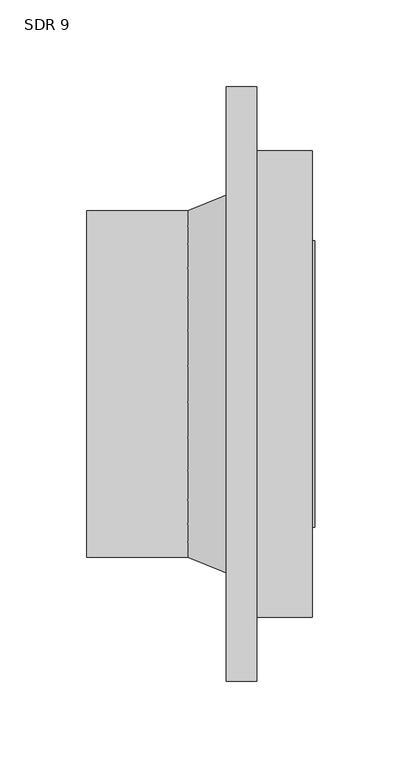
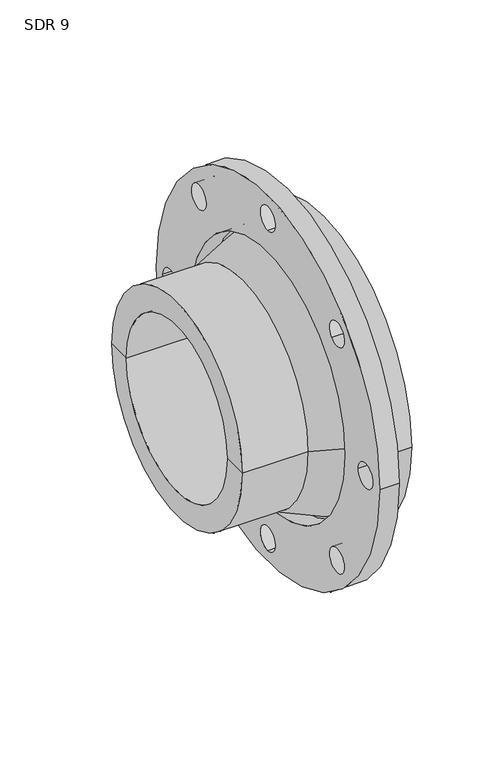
"""IFC4 building model written with IfcOpenShell, lengths in millimetres: valve geometry, Aquatherm - Flange Adapter Butt-Weld : SDR 9."""

import ifcopenshell
import ifcopenshell.guid

model = None  # the IFC model being written
_history = None  # IfcOwnerHistory: only IFC2X3 demands one
_inside = {}  # id of a spatial element -> (the spatial element, [elements in it])
_under = {}  # id of a project, library or spatial element -> (it, [spatial elements below it])
_declared = {}  # id of a project -> (the project, [libraries it declares])
_typed = {}  # id of a type object -> (the type object, [elements of that type])
_made_of = {}  # id of a material, layer set ... -> (it, [elements and type objects made of it])


def new_model(schema):
    """Start an empty IFC model of exactly this schema.

    Asked for "IFC4X3", IfcOpenShell would pick the latest addendum, in which some entities
    have other attributes; the version numbers below select the first issue.
    IFC2X3 requires an IfcOwnerHistory on every rooted entity: one is made here for all.
    """
    global model, _history
    if schema == "IFC4X3":
        model = ifcopenshell.file(schema_version=(4, 3, 0, 0))
    else:
        model = ifcopenshell.file(schema=schema)
    _inside.clear()
    _under.clear()
    _declared.clear()
    _typed.clear()
    _made_of.clear()
    _history = None
    if model.schema == "IFC2X3":
        org = make("IfcOrganization", Name="unknown")
        user = make(
            "IfcPersonAndOrganization",
            ThePerson=make("IfcPerson", FamilyName="unknown"),
            TheOrganization=org,
        )
        app = make(
            "IfcApplication",
            ApplicationDeveloper=org,
            Version="unknown",
            ApplicationFullName="unknown",
            ApplicationIdentifier="unknown",
        )
        _history = make(
            "IfcOwnerHistory",
            OwningUser=user,
            OwningApplication=app,
            ChangeAction="ADDED",
            CreationDate=0,
        )
    return model


def make(cls, **values):
    """One entity of the class cls with the attributes given. An attribute that is None is left unset."""
    return model.create_entity(
        cls, **{name: value for name, value in values.items() if value is not None}
    )


def rooted(cls, **values):
    """An entity with a GlobalId (a new one), such as an element, a storey or a relation."""
    return make(cls, GlobalId=ifcopenshell.guid.new(), OwnerHistory=_history, **values)


def si_unit(unit_type, name, prefix=None):
    """IfcSIUnit, for example si_unit("LENGTHUNIT", "METRE", prefix="MILLI")."""
    return make("IfcSIUnit", UnitType=unit_type, Prefix=prefix, Name=name)


def assignment(units):
    """IfcUnitAssignment: the units of a project."""
    return None if units is None else make("IfcUnitAssignment", Units=units)


def point(xyz):
    """IfcCartesianPoint."""
    return None if xyz is None else make("IfcCartesianPoint", Coordinates=xyz)


def direction(xyz):
    """IfcDirection."""
    return None if xyz is None else make("IfcDirection", DirectionRatios=xyz)


def frame(location, z_axis=None, x_axis=None):
    """IfcAxis2Placement3D, a coordinate frame: its origin and axes. An axis left out is left unset."""
    return make(
        "IfcAxis2Placement3D",
        Location=point(location),
        Axis=direction(z_axis),
        RefDirection=direction(x_axis),
    )


def frame_2d(location, x_axis=None):
    """IfcAxis2Placement2D, a coordinate frame in the plane: its origin and x axis."""
    return make(
        "IfcAxis2Placement2D", Location=point(location), RefDirection=direction(x_axis)
    )


def origin():
    """The frame at (0, 0, 0) with its axes left unset."""
    return frame((0.0, 0.0, 0.0))


def origin_2d():
    """The frame at (0, 0) in the plane with its x axis left unset."""
    return frame_2d((0.0, 0.0))


def place(relative_to, where):
    """IfcLocalPlacement: puts the frame where relative to a parent placement (None: the world)."""
    return make(
        "IfcLocalPlacement", PlacementRelTo=relative_to, RelativePlacement=where
    )


def context(
    kind, dimensions, precision=None, world=None, true_north=None, identifier=None
):
    """IfcGeometricRepresentationContext, for example the 3D "Model" context."""
    return make(
        "IfcGeometricRepresentationContext",
        ContextIdentifier=identifier,
        ContextType=kind,
        CoordinateSpaceDimension=dimensions,
        Precision=precision,
        WorldCoordinateSystem=world,
        TrueNorth=true_north,
    )


def project(units=None, contexts=None):
    """IfcProject with its units and contexts."""
    return rooted(
        "IfcProject",
        Name="project",
        RepresentationContexts=contexts,
        UnitsInContext=assignment(units),
    )


def spatial(cls, under=None, at=None, **own):
    """A site, building, storey or space (cls), placed at a placement, below another one or the project."""
    s = rooted(cls, ObjectPlacement=at, **own)
    if under is not None:
        _under.setdefault(under.id(), (under, []))[1].append(s)
    return s


def polyline(points):
    """IfcPolyline through the points."""
    return make("IfcPolyline", Points=[point(p) for p in points])


def circle_curve(where, radius):
    """IfcCircle in the frame where."""
    return make("IfcCircle", Position=where, Radius=radius)


def trimmed(basis, trim1, trim2, sense, master):
    """IfcTrimmedCurve: the piece of a basis curve between two trims."""
    return make(
        "IfcTrimmedCurve",
        BasisCurve=basis,
        Trim1=trim1,
        Trim2=trim2,
        SenseAgreement=sense,
        MasterRepresentation=master,
    )


def segment(curve, same_sense, transition):
    """IfcCompositeCurveSegment."""
    return make(
        "IfcCompositeCurveSegment",
        Transition=transition,
        SameSense=same_sense,
        ParentCurve=curve,
    )


def composite_curve(segments, self_intersect=None):
    """IfcCompositeCurve: segments joined end to end."""
    return make("IfcCompositeCurve", Segments=segments, SelfIntersect=self_intersect)


def outline(outer, holes=None, kind="AREA"):
    """IfcArbitraryClosedProfileDef: a profile drawn as a closed curve; with holes, ...WithVoids."""
    if holes is None:
        return make("IfcArbitraryClosedProfileDef", ProfileType=kind, OuterCurve=outer)
    return make(
        "IfcArbitraryProfileDefWithVoids",
        ProfileType=kind,
        OuterCurve=outer,
        InnerCurves=holes,
    )


def extrude(swept, where, along, depth):
    """IfcExtrudedAreaSolid: the profile swept, set in the frame where, extruded along a direction by depth."""
    return make(
        "IfcExtrudedAreaSolid",
        SweptArea=swept,
        Position=where,
        ExtrudedDirection=direction(along),
        Depth=depth,
    )


def shape(context_of_items, identifier, shape_type, items):
    """IfcShapeRepresentation: the items that make up one representation, for example the "Body"."""
    return make(
        "IfcShapeRepresentation",
        ContextOfItems=context_of_items,
        RepresentationIdentifier=identifier,
        RepresentationType=shape_type,
        Items=items,
    )


def source(mapping_origin, context_of_items, identifier, shape_type, items):
    """IfcRepresentationMap: a shape defined once, which mapped items show again and again."""
    return make(
        "IfcRepresentationMap",
        MappingOrigin=mapping_origin,
        MappedRepresentation=shape(context_of_items, identifier, shape_type, items),
    )


def transform(
    local_origin,
    x_axis=None,
    y_axis=None,
    z_axis=None,
    scale=None,
    scale2=None,
    scale3=None,
    uniform=True,
):
    """IfcCartesianTransformationOperator3D, or its non-uniform kind. x_axis, y_axis, z_axis: its Axis1, 2, 3."""
    if uniform:
        return make(
            "IfcCartesianTransformationOperator3D",
            Axis1=direction(x_axis),
            Axis2=direction(y_axis),
            LocalOrigin=point(local_origin),
            Scale=scale,
            Axis3=direction(z_axis),
        )
    return make(
        "IfcCartesianTransformationOperator3DnonUniform",
        Axis1=direction(x_axis),
        Axis2=direction(y_axis),
        LocalOrigin=point(local_origin),
        Scale=scale,
        Axis3=direction(z_axis),
        Scale2=scale2,
        Scale3=scale3,
    )


def mapped(mapping_source, mapping_target):
    """IfcMappedItem: shows the shape of a source again, moved by a transform."""
    return make(
        "IfcMappedItem", MappingSource=mapping_source, MappingTarget=mapping_target
    )


def made_of(thing, what):
    """Note that an element or type object is made of a material, layer set ...; save() writes the relation."""
    if what is not None:
        _made_of.setdefault(what.id(), (what, []))[1].append(thing)
    return thing


def element(
    cls,
    number,
    at=None,
    inside=None,
    cuts=None,
    type_object=None,
    material=None,
    context=None,
    identifier="Body",
    shape_type=None,
    held_by="IfcProductDefinitionShape",
    body=None,
    shapes=None,
    **own,
):
    """One element of the class cls, such as IfcWall. Its Tag is "e" and its number.

    at: its placement. inside: the storey or other place that contains it. cuts: it is an
    opening in that element (IfcRelVoidsElement). A single representation is given by context,
    identifier, shape_type and body (its items); several are given by shapes. held_by: the class
    of the entity that holds the representations. save() writes the other relations.
    """
    e = rooted(cls, Tag="e%d" % number, ObjectPlacement=at, **own)
    if body is not None:
        shapes = [shape(context, identifier, shape_type, body)]
    if shapes is not None:
        e.Representation = make(held_by, Representations=shapes)
    if inside is not None:
        _inside.setdefault(inside.id(), (inside, []))[1].append(e)
    if cuts is not None:
        rooted(
            "IfcRelVoidsElement", RelatingBuildingElement=cuts, RelatedOpeningElement=e
        )
    if type_object is not None:
        _typed.setdefault(type_object.id(), (type_object, []))[1].append(e)
    return made_of(e, material)


def aggregate(whole, parts):
    """IfcRelAggregates: a whole, such as a stair, and the parts it consists of."""
    return rooted("IfcRelAggregates", RelatingObject=whole, RelatedObjects=parts)


def save(model, path):
    """Write the relations noted so far, then the file.

    IfcRelAggregates (storeys below a building ...), IfcRelContainedInSpatialStructure (elements
    in a storey), IfcRelDefinesByType, IfcRelAssociatesMaterial and IfcRelDeclares: one each for
    every whole, place, type object, material and project.
    """
    for whole, parts in _under.values():
        aggregate(whole, parts)
    for where, things in _inside.values():
        rooted(
            "IfcRelContainedInSpatialStructure",
            RelatedElements=things,
            RelatingStructure=where,
        )
    for kind, things in _typed.values():
        rooted("IfcRelDefinesByType", RelatedObjects=things, RelatingType=kind)
    for what, things in _made_of.values():
        rooted("IfcRelAssociatesMaterial", RelatedObjects=things, RelatingMaterial=what)
    for by, libraries in _declared.values():
        rooted("IfcRelDeclares", RelatingContext=by, RelatedDefinitions=libraries)
    model.write(path)


def plane_surface(at):
    """IfcPlane: the flat surface through the origin of the frame at, square to its z axis."""
    return make("IfcPlane", Position=at)


def cylinder_surface(at, radius):
    """IfcCylindricalSurface: all points at the distance radius from the z axis of the frame at."""
    return make("IfcCylindricalSurface", Position=at, Radius=radius)


def revolved_surface(curve, axis_point, axis_direction):
    """IfcSurfaceOfRevolution: the curve turned about the line through axis_point along axis_direction."""
    return make(
        "IfcSurfaceOfRevolution",
        SweptCurve=make("IfcArbitraryOpenProfileDef", ProfileType="CURVE", Curve=curve),
        AxisPosition=make("IfcAxis1Placement", Location=point(axis_point), Axis=direction(axis_direction)),
    )


def advanced_brep(points, edges, surfaces, faces):
    """IfcAdvancedBrep: a solid bounded by faces that lie on surfaces and meet in shared edges.

    An edge is (start, end): straight between two places in points (the first is 0);
    or (start, end, curve); or (start, end, curve, False) where it runs against its curve.
    A face is (place in surfaces, loops), or (place, loops, False) where it looks against
    its surface's normal. A loop lists edges by number (the first is 1), with a minus sign
    where the edge is run from its end to its start. The first loop is the outer one.
    """
    corners = [point(p) for p in points]
    vertices = [make("IfcVertexPoint", VertexGeometry=c) for c in corners]
    made = []
    for start, end, *more in edges:
        made.append(
            make(
                "IfcEdgeCurve",
                EdgeStart=vertices[start],
                EdgeEnd=vertices[end],
                EdgeGeometry=more[0] if more else make("IfcPolyline", Points=[corners[start], corners[end]]),
                SameSense=more[1] if len(more) > 1 else True,
            )
        )
    hull = []
    for where, loops, *sense in faces:
        bounds = []
        for j, loop in enumerate(loops):
            ring = [make("IfcOrientedEdge", EdgeElement=made[abs(k) - 1], Orientation=k > 0) for k in loop]
            bounds.append(
                make(
                    "IfcFaceOuterBound" if j == 0 else "IfcFaceBound",
                    Bound=make("IfcEdgeLoop", EdgeList=ring),
                    Orientation=True,
                )
            )
        hull.append(make("IfcAdvancedFace", Bounds=bounds, FaceSurface=surfaces[where], SameSense=sense[0] if sense else True))
    return make("IfcAdvancedBrep", Outer=make("IfcClosedShell", CfsFaces=hull))


def sdr_9_1f6f3b40(model_context):
    return source(origin(), model_context, "Body", "SolidModel", [
        extrude(outline(composite_curve([segment(trimmed(circle_curve(origin_2d(), 171.45), [point((-171.45, 0.0))], [point((171.45, 0.0))], False, "CARTESIAN"), True, "CONTINUOUS"), segment(trimmed(circle_curve(origin_2d(), 171.45), [point((171.45, 0.0))], [point((-171.45, 0.0))], False, "CARTESIAN"), True, "CONTINUOUS")], self_intersect=False), holes=[composite_curve([segment(trimmed(circle_curve(origin_2d(), 118.237), [point((-118.237, 0.0))], [point((118.237, 0.0))], True, "CARTESIAN"), True, "CONTINUOUS"), segment(trimmed(circle_curve(origin_2d(), 118.237), [point((118.237, 0.0))], [point((-118.237, 0.0))], True, "CARTESIAN"), True, "CONTINUOUS")], self_intersect=False), composite_curve([segment(trimmed(circle_curve(frame_2d((149.86, 0.0)), 11.176), [point((138.684, 0.0))], [point((161.036, 0.0))], True, "CARTESIAN"), True, "CONTINUOUS"), segment(trimmed(circle_curve(frame_2d((149.86, 0.0)), 11.176), [point((161.036, 0.0))], [point((138.684, 0.0))], True, "CARTESIAN"), True, "CONTINUOUS")], self_intersect=False), composite_curve([segment(trimmed(circle_curve(frame_2d((105.9670222, -105.9670222)), 11.176), [point((98.0643968, -98.0643968))], [point((113.8696476, -113.8696476))], True, "CARTESIAN"), True, "CONTINUOUS"), segment(trimmed(circle_curve(frame_2d((105.9670222, -105.9670222)), 11.176), [point((113.8696476, -113.8696476))], [point((98.0643968, -98.0643968))], True, "CARTESIAN"), True, "CONTINUOUS")], self_intersect=False), composite_curve([segment(trimmed(circle_curve(frame_2d((105.9670222, 105.9670222)), 11.176), [point((98.0643968, 98.0643968))], [point((113.8696476, 113.8696476))], True, "CARTESIAN"), True, "CONTINUOUS"), segment(trimmed(circle_curve(frame_2d((105.9670222, 105.9670222)), 11.176), [point((113.8696476, 113.8696476))], [point((98.0643968, 98.0643968))], True, "CARTESIAN"), True, "CONTINUOUS")], self_intersect=False), composite_curve([segment(trimmed(circle_curve(frame_2d((0.0, 149.86)), 11.176), [point((0.0, 138.684))], [point((0.0, 161.036))], True, "CARTESIAN"), True, "CONTINUOUS"), segment(trimmed(circle_curve(frame_2d((0.0, 149.86)), 11.176), [point((0.0, 161.036))], [point((0.0, 138.684))], True, "CARTESIAN"), True, "CONTINUOUS")], self_intersect=False), composite_curve([segment(trimmed(circle_curve(frame_2d((-105.9670222, 105.9670222)), 11.176), [point((-98.0643968, 98.0643968))], [point((-113.8696476, 113.8696476))], True, "CARTESIAN"), True, "CONTINUOUS"), segment(trimmed(circle_curve(frame_2d((-105.9670222, 105.9670222)), 11.176), [point((-113.8696476, 113.8696476))], [point((-98.0643968, 98.0643968))], True, "CARTESIAN"), True, "CONTINUOUS")], self_intersect=False), composite_curve([segment(trimmed(circle_curve(frame_2d((-149.86, 0.0)), 11.176), [point((-138.684, 0.0))], [point((-161.036, 0.0))], True, "CARTESIAN"), True, "CONTINUOUS"), segment(trimmed(circle_curve(frame_2d((-149.86, 0.0)), 11.176), [point((-161.036, 0.0))], [point((-138.684, 0.0))], True, "CARTESIAN"), True, "CONTINUOUS")], self_intersect=False), composite_curve([segment(trimmed(circle_curve(frame_2d((-105.9670222, -105.9670222)), 11.176), [point((-98.0643968, -98.0643968))], [point((-113.8696476, -113.8696476))], True, "CARTESIAN"), True, "CONTINUOUS"), segment(trimmed(circle_curve(frame_2d((-105.9670222, -105.9670222)), 11.176), [point((-113.8696476, -113.8696476))], [point((-98.0643968, -98.0643968))], True, "CARTESIAN"), True, "CONTINUOUS")], self_intersect=False), composite_curve([segment(trimmed(circle_curve(frame_2d((0.0, -149.86)), 11.176), [point((0.0, -138.684))], [point((0.0, -161.036))], True, "CARTESIAN"), True, "CONTINUOUS"), segment(trimmed(circle_curve(frame_2d((0.0, -149.86)), 11.176), [point((0.0, -161.036))], [point((0.0, -138.684))], True, "CARTESIAN"), True, "CONTINUOUS")], self_intersect=False)]), frame((-17.526, 0.0, 0.0), z_axis=(1.0, 0.0, 0.0), x_axis=(0.0, 1.0, 0.0)), (0.0, 0.0, 1.0), 17.526),
        advanced_brep(
        [(32.004, 134.62, 0.0), (32.004, -134.62, 0.0), (0.0, -134.62, 0.0), (0.0, 134.62, 0.0), (33.5915, 77.597, 0.0), (33.5915, -77.597, 0.0), (33.5915, -82.677, 0.0), (33.5915, 82.677, 0.0), (-98.044, 77.597, 0.0), (-98.044, -77.597, 0.0), (-98.044, 99.949, 0.0), (-98.044, -99.949, 0.0), (-39.878, 99.949, 0.0), (-39.878, -99.949, 0.0), (0.0, -115.951, 0.0), (0.0, 115.951, 0.0), (32.004, 82.677, 0.0), (32.004, -82.677, 0.0)],
        [
            (0, 1, circle_curve(frame((32.004, 0.0, 0.0), z_axis=(-1.0, 0.0, 0.0), x_axis=(0.0, -1.0, 0.0)), 134.62)),
            (1, 2),
            (2, 3, circle_curve(frame((0.0, 0.0, 0.0), z_axis=(1.0, 0.0, 0.0), x_axis=(0.0, -1.0, 0.0)), 134.62)),
            (3, 0),
            (1, 0, circle_curve(frame((32.004, 0.0, 0.0), z_axis=(-1.0, 0.0, 0.0), x_axis=(0.0, -1.0, 0.0)), 134.62)),
            (3, 2, circle_curve(frame((0.0, 0.0, 0.0), z_axis=(1.0, 0.0, 0.0), x_axis=(0.0, -1.0, 0.0)), 134.62)),
            (4, 5, circle_curve(frame((33.5915, 0.0, 0.0), z_axis=(-1.0, 0.0, 0.0), x_axis=(0.0, -1.0, 0.0)), 77.597)),
            (5, 6),
            (6, 7, circle_curve(frame((33.5915, 0.0, 0.0), z_axis=(1.0, 0.0, 0.0), x_axis=(0.0, -1.0, 0.0)), 82.677)),
            (7, 4),
            (5, 4, circle_curve(frame((33.5915, 0.0, 0.0), z_axis=(-1.0, 0.0, 0.0), x_axis=(0.0, -1.0, 0.0)), 77.597)),
            (7, 6, circle_curve(frame((33.5915, 0.0, 0.0), z_axis=(1.0, 0.0, 0.0), x_axis=(0.0, -1.0, 0.0)), 82.677)),
            (8, 9, circle_curve(frame((-98.044, 0.0, 0.0), z_axis=(-1.0, 0.0, 0.0), x_axis=(0.0, -1.0, 0.0)), 77.597)),
            (9, 5),
            (4, 8),
            (9, 8, circle_curve(frame((-98.044, 0.0, 0.0), z_axis=(-1.0, 0.0, 0.0), x_axis=(0.0, -1.0, 0.0)), 77.597)),
            (10, 11, circle_curve(frame((-98.044, 0.0, 0.0), z_axis=(-1.0, 0.0, 0.0), x_axis=(0.0, -1.0, 0.0)), 99.949)),
            (11, 9),
            (8, 10),
            (11, 10, circle_curve(frame((-98.044, 0.0, 0.0), z_axis=(-1.0, 0.0, 0.0), x_axis=(0.0, -1.0, 0.0)), 99.949)),
            (12, 13, circle_curve(frame((-39.878, 0.0, 0.0), z_axis=(-1.0, 0.0, 0.0), x_axis=(0.0, -1.0, 0.0)), 99.949)),
            (13, 11),
            (10, 12),
            (13, 12, circle_curve(frame((-39.878, 0.0, 0.0), z_axis=(-1.0, 0.0, 0.0), x_axis=(0.0, -1.0, 0.0)), 99.949)),
            (2, 14),
            (14, 15, circle_curve(frame((0.0, 0.0, 0.0), z_axis=(1.0, 0.0, 0.0), x_axis=(0.0, -1.0, 0.0)), 115.951)),
            (15, 3),
            (15, 14, circle_curve(frame((0.0, 0.0, 0.0), z_axis=(1.0, 0.0, 0.0), x_axis=(0.0, -1.0, 0.0)), 115.951)),
            (16, 17, circle_curve(frame((32.004, 0.0, 0.0), z_axis=(-1.0, 0.0, 0.0), x_axis=(0.0, -1.0, 0.0)), 82.677)),
            (17, 1),
            (0, 16),
            (17, 16, circle_curve(frame((32.004, 0.0, 0.0), z_axis=(-1.0, 0.0, 0.0), x_axis=(0.0, -1.0, 0.0)), 82.677)),
            (6, 17),
            (16, 7),
            (14, 13),
            (12, 15),
        ],
        [
            cylinder_surface(frame((1472.6429321, 0.0, 0.0), z_axis=(1.0, 0.0, 0.0), x_axis=(0.0, -1.0, 0.0)), 134.62),
            plane_surface(frame((33.5915, 0.0, 0.0), z_axis=(1.0, 0.0, 0.0), x_axis=(0.0, -1.0, 0.0))),
            revolved_surface(polyline([(33.591499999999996, -77.597, 0.0), (-98.0440000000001, -77.597, 0.0)]), (1472.6429321, 0.0, 0.0), (1.0, 0.0, 0.0)),
            plane_surface(frame((-98.044, 0.0, 0.0), z_axis=(-1.0, 0.0, 0.0), x_axis=(0.0, -1.0, 0.0))),
            cylinder_surface(frame((1472.6429321, 0.0, 0.0), z_axis=(1.0, 0.0, 0.0), x_axis=(0.0, -1.0, 0.0)), 99.949),
            plane_surface(frame((0.0, 0.0, 0.0), z_axis=(-1.0, 0.0, 0.0), x_axis=(0.0, -1.0, 0.0))),
            plane_surface(frame((32.004, 0.0, 0.0), z_axis=(1.0, 0.0, 0.0), x_axis=(0.0, -1.0, 0.0))),
            cylinder_surface(frame((1472.6429321, 0.0, 0.0), z_axis=(1.0, 0.0, 0.0), x_axis=(0.0, -1.0, 0.0)), 82.677),
            revolved_surface(polyline([(-39.878, -99.949, 0.0), (0.0, -115.951, 0.0)]), (1472.6429321, 0.0, 0.0), (1.0, 0.0, 0.0)),
        ],
        [
            (0, [[1, 2, 3, 4]]),
            (0, [[5, -4, 6, -2]]),
            (1, [[7, 8, 9, 10]]),
            (1, [[11, -10, 12, -8]]),
            (2, [[13, 14, -7, 15]]),
            (2, [[16, -15, -11, -14]]),
            (3, [[17, 18, -13, 19]]),
            (3, [[20, -19, -16, -18]]),
            (4, [[21, 22, -17, 23]]),
            (4, [[24, -23, -20, -22]]),
            (5, [[-3, 25, 26, 27]]),
            (5, [[-6, -27, 28, -25]]),
            (6, [[29, 30, -1, 31]]),
            (6, [[32, -31, -5, -30]]),
            (7, [[-9, 33, -29, 34]]),
            (7, [[-12, -34, -32, -33]]),
            (8, [[-26, 35, -21, 36]]),
            (8, [[-28, -36, -24, -35]]),
        ],
    ),
    ])


if __name__ == "__main__":
    model = new_model("IFC4")
    model_context = context("Model", 3, world=origin())
    ifc_project = project(units=[si_unit("LENGTHUNIT", "METRE", prefix="MILLI")], contexts=[model_context])
    site = spatial("IfcSite", under=ifc_project)
    building = spatial("IfcBuilding", under=site)
    placement = place(None, origin())
    sdr_9_shape = sdr_9_1f6f3b40(model_context)
    element("IfcValve", 1, ObjectType="Aquatherm - Flange Adapter Butt-Weld : SDR 9", at=placement, inside=building, context=model_context, shape_type="MappedRepresentation", body=[
        mapped(sdr_9_shape, transform((0.0, 0.0, 0.0), x_axis=(1.0, 0.0, 0.0), y_axis=(0.0, 1.0, 0.0), z_axis=(0.0, 0.0, 1.0))),
    ])
    save(model, "model.ifc")
